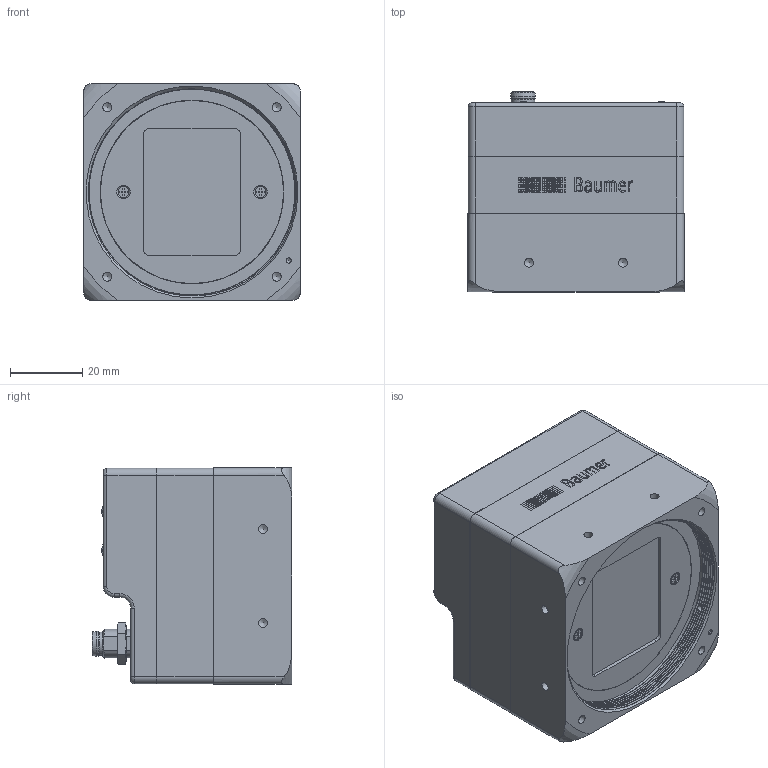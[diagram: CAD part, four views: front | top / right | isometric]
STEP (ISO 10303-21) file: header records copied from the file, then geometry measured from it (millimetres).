
FILE_DESCRIPTION( ( 'Unknown' ), '1' );
FILE_NAME( 'Z:/entw/Konstruktion/Mcad/Solid Edge/11110000/11117849_LXG-200C.stp', '14.10.2014', ( 'Unknown' ), ( 'Unknown' ), 'PSStep 15.0.49', 'Unknown', ' ' );
FILE_SCHEMA( ( 'AUTOMOTIVE_DESIGN { 1 0 10303 214 1 1 1 1 }' ) );
Length unit declared in the file: millimetre
Products named in the file (1): 11115181
Bounding box: 60 x 55.45 x 60 mm (x, y, z)
Volume: 129009.4 mm3; surface area: 57784.3 mm2
Topology: 1 solids, 11 shells, 4220 faces, 11326 edges, 7364 vertices
Faces by surface type: plane 2502, cylinder 1392, torus 82, cone 74, sphere 73, extrusion 52, bspline 45
Full cylindrical faces by diameter (mm): 0.223 x20, 0.28 x20, 0.337 x20, 0.394 x20, 0.451 x20, 0.509 x20, 0.566 x20, 0.6 x16, 0.623 x20, 1.18 x2, 1.221 x10, 1.45 x1, 1.5 x1, 1.567 x26, 1.8 x2, 2 x8, 2.4 x6, 2.459 x24, 2.8 x1, 2.92 x1, 3 x2, 3.4 x1, 3.8 x4, 4 x4, 4.3 x4, 4.5 x2, 6.5 x1, 6.9 x1, 9 x1, 15 x1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
Entity records: 175709 total; most frequent: CARTESIAN_POINT 37710, ORIENTED_EDGE 21496, DIRECTION 21398, EDGE_CURVE 10748, VECTOR 7298, LINE 7246, VERTEX_POINT 7172, AXIS2_PLACEMENT_3D 7050
